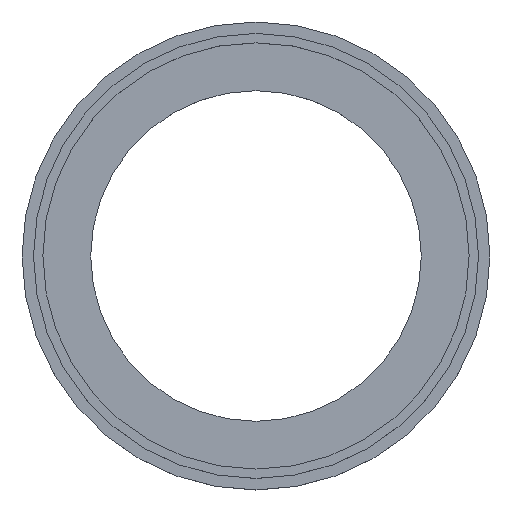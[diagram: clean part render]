
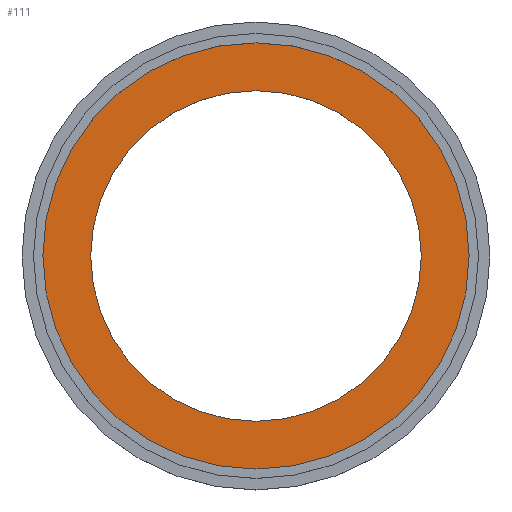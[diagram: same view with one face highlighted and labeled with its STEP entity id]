
A CAD part, top view. The second image highlights one B-rep face of the part: STEP entity #111.
In plain terms, the highlighted planar face has unit normal (0, 0, 1).
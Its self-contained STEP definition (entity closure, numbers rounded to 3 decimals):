
#1 = VERTEX_POINT ( 'NONE', #204 ) ;
#9 = ORIENTED_EDGE ( 'NONE', *, *, #162, .F. ) ;
#28 = CARTESIAN_POINT ( 'NONE',  ( 22.735, 0., 3.7 ) ) ;
#29 = EDGE_CURVE ( 'NONE', #129, #337, #335, .T. ) ;
#31 = DIRECTION ( 'NONE',  ( 0., 0., -1. ) ) ;
#38 = DIRECTION ( 'NONE',  ( 0., 0., 1. ) ) ;
#39 = CARTESIAN_POINT ( 'NONE',  ( 0., 0., 3.7 ) ) ;
#41 = VERTEX_POINT ( 'NONE', #126 ) ;
#45 = CIRCLE ( 'NONE', #284, 22.735 ) ;
#53 = CARTESIAN_POINT ( 'NONE',  ( 0., 0., 3.7 ) ) ;
#63 = EDGE_CURVE ( 'NONE', #1, #41, #87, .T. ) ;
#64 = CARTESIAN_POINT ( 'NONE',  ( 0., 0., 3.7 ) ) ;
#73 = ORIENTED_EDGE ( 'NONE', *, *, #29, .F. ) ;
#80 = CARTESIAN_POINT ( 'NONE',  ( 0., 0., 3.7 ) ) ;
#87 = CIRCLE ( 'NONE', #239, 29.31 ) ;
#90 = DIRECTION ( 'NONE',  ( 0., 0., 1. ) ) ;
#110 = EDGE_LOOP ( 'NONE', ( #274, #9 ) ) ;
#111 = ADVANCED_FACE ( 'NONE', ( #265, #299 ), #294, .T. ) ;
#126 = CARTESIAN_POINT ( 'NONE',  ( 29.31, 0., 3.7 ) ) ;
#129 = VERTEX_POINT ( 'NONE', #28 ) ;
#149 = AXIS2_PLACEMENT_3D ( 'NONE', #177, #38, #280 ) ;
#162 = EDGE_CURVE ( 'NONE', #41, #1, #221, .T. ) ;
#168 = ORIENTED_EDGE ( 'NONE', *, *, #292, .F. ) ;
#177 = CARTESIAN_POINT ( 'NONE',  ( 0., 0., 3.7 ) ) ;
#189 = DIRECTION ( 'NONE',  ( 1., 0., 0. ) ) ;
#204 = CARTESIAN_POINT ( 'NONE',  ( -29.31, 0., 3.7 ) ) ;
#205 = DIRECTION ( 'NONE',  ( 1., 0., 0. ) ) ;
#207 = AXIS2_PLACEMENT_3D ( 'NONE', #80, #31, #189 ) ;
#218 = EDGE_LOOP ( 'NONE', ( #168, #73 ) ) ;
#221 = CIRCLE ( 'NONE', #207, 29.31 ) ;
#239 = AXIS2_PLACEMENT_3D ( 'NONE', #39, #258, #342 ) ;
#253 = AXIS2_PLACEMENT_3D ( 'NONE', #53, #357, #273 ) ;
#258 = DIRECTION ( 'NONE',  ( 0., 0., -1. ) ) ;
#265 = FACE_BOUND ( 'NONE', #218, .T. ) ;
#266 = CARTESIAN_POINT ( 'NONE',  ( -22.735, 0., 3.7 ) ) ;
#273 = DIRECTION ( 'NONE',  ( 1., 0., 0. ) ) ;
#274 = ORIENTED_EDGE ( 'NONE', *, *, #63, .F. ) ;
#280 = DIRECTION ( 'NONE',  ( 1., 0., 0. ) ) ;
#284 = AXIS2_PLACEMENT_3D ( 'NONE', #64, #90, #205 ) ;
#292 = EDGE_CURVE ( 'NONE', #337, #129, #45, .T. ) ;
#294 = PLANE ( 'NONE',  #253 ) ;
#299 = FACE_OUTER_BOUND ( 'NONE', #110, .T. ) ;
#335 = CIRCLE ( 'NONE', #149, 22.735 ) ;
#337 = VERTEX_POINT ( 'NONE', #266 ) ;
#342 = DIRECTION ( 'NONE',  ( 1., 0., 0. ) ) ;
#357 = DIRECTION ( 'NONE',  ( 0., 0., 1. ) ) ;
